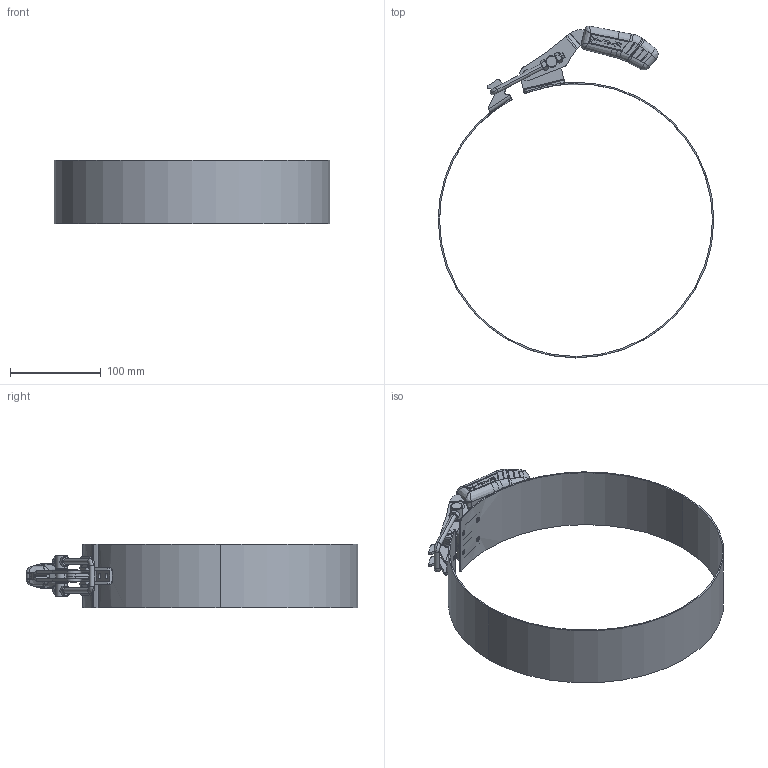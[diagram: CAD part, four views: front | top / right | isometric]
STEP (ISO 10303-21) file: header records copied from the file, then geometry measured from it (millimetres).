
FILE_DESCRIPTION (( 'STEP AP203' ), '1' );
FILE_NAME ('KF-843 CT300.STEP', '2020-07-30T16:43:07', ( 'Ricardo' ), ( '' ), 'SwSTEP 2.0', 'SolidWorks 2019', '' );
FILE_SCHEMA (( 'CONFIG_CONTROL_DESIGN' ));
Length unit declared in the file: millimetre
Products named in the file (13): 03.20021; 02.12251_Direita; 11.50016; 02.12251_Esquerda; 11.50009; 01.10401_Direita; 07.60001; 01.10401_Esquerda; 06.50023; 16.20037; 22.10094; 15.10029; KF-843 CT300
Assembly tree (14 placements, depth 2):
  KF-843 CT300
    02.12251_Direita
    02.12251_Esquerda
    01.10401_Direita
    01.10401_Esquerda
    16.20037
    15.10029
    03.20021
    11.50016  x2
    11.50009  x2
    07.60001
    06.50023
    22.10094
Bounding box: 303 x 364.92 x 70 mm (x, y, z)
Volume: 181636.6 mm3; surface area: 175518.3 mm2
Topology: 14 solids, 14 shells, 656 faces, 1649 edges, 1035 vertices
Faces by surface type: plane 248, cylinder 189, bspline 150, cone 62, torus 7
Entity records: 24261 total; most frequent: CARTESIAN_POINT 9731, ORIENTED_EDGE 3082, DIRECTION 2181, EDGE_CURVE 1541, VERTEX_POINT 975, AXIS2_PLACEMENT_3D 789, EDGE_LOOP 678, ADVANCED_FACE 610
